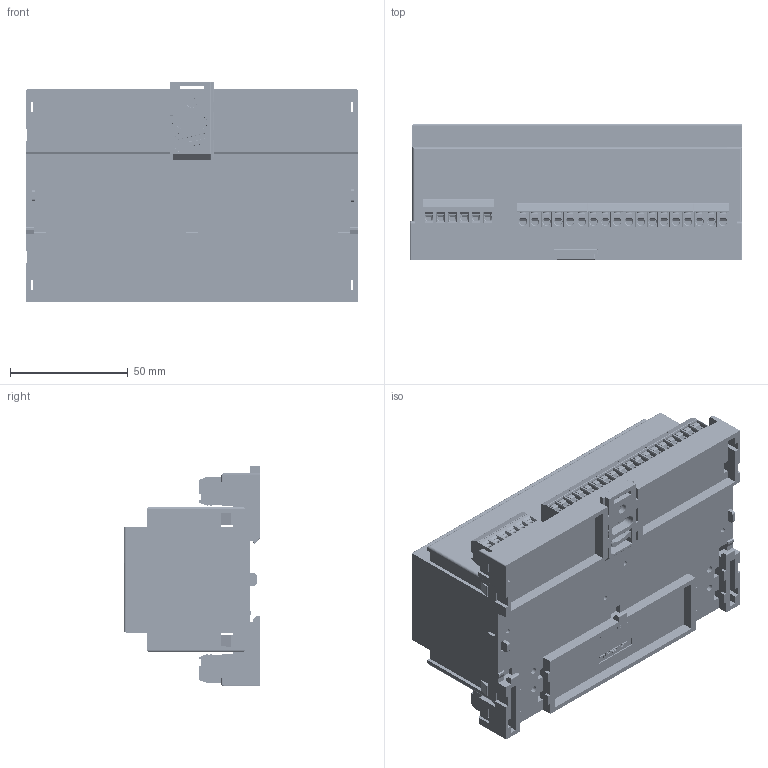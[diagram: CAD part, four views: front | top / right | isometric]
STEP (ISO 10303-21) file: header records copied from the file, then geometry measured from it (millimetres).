
FILE_DESCRIPTION (( 'STEP AP214' ), '1' );
FILE_NAME ('12320-1900-00_3D.STEP', '2014-10-07T11:03:49', ( '' ), ( '' ), 'SwSTEP 2.0', 'SolidWorks 2014', '' );
FILE_SCHEMA (( 'AUTOMOTIVE_DESIGN' ));
Length unit declared in the file: millimetre
Products named in the file (20): 31007103; 31137103; 12320-1200-01_3D; 1080 1990.5_V-Riegel_3D; V8_Frontplatte; V8_Oberteil; V8_Leiterplatte; 1080 1910.4_3D_V8_UT; 31137106; 12320-1900-00_3D
Assembly tree (21 placements, depth 2):
  12320-1900-00_3D
    1080 1910.4_3D_V8_UT
    V8_Leiterplatte
    V8_Oberteil
    V8_Frontplatte
    1080 1990.5_V-Riegel_3D
    12320-1200-01_3D
    31137103  x2
    31007103
    31007103
    31007103
    31007103
    31007103
    31007103  x2
    31007103
    31007103
    31007103
    31007103
    31007103
    31137106
Bounding box: 141 x 58 x 93.84 mm (x, y, z)
Volume: 131001 mm3; surface area: 161315.9 mm2
Topology: 810 solids, 810 shells, 13544 faces, 34968 edges, 23052 vertices
Faces by surface type: plane 10451, bspline 1405, cylinder 1348, cone 264, torus 58, sphere 18
Full cylindrical faces by diameter (mm): 0.2 x48, 1.5 x16, 1.8 x4, 1.9 x36, 2 x52, 2.25 x12, 2.4 x12, 2.7 x12, 2.8 x37, 3 x66, 3.5 x4, 3.658 x1, 3.9 x12, 4.2 x1, 4.5 x4, 6 x1
Entity records: 438006 total; most frequent: CARTESIAN_POINT 120942, ORIENTED_EDGE 64768, DIRECTION 54712, EDGE_CURVE 32384, LINE 25466, VECTOR 25466, VERTEX_POINT 21600, AXIS2_PLACEMENT_3D 14623
